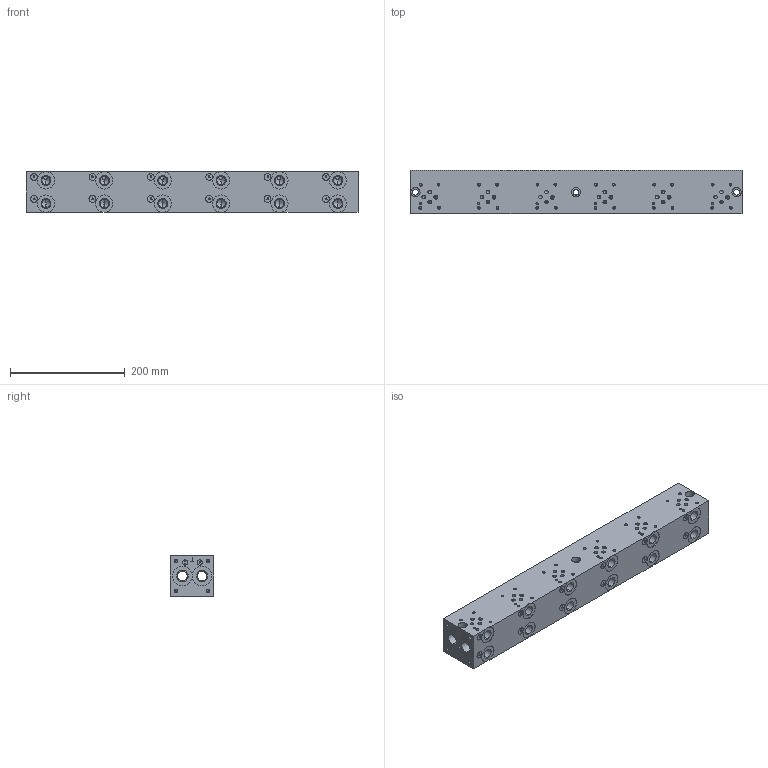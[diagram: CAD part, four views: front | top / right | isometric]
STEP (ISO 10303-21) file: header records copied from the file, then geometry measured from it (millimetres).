
FILE_DESCRIPTION (( 'STEP AP203' ), '1' );
FILE_NAME ('BM-ASP03S4-06-1_Z.STEP', '2015-01-06T15:43:49', ( '' ), ( '' ), 'SwSTEP 2.0', 'SolidWorks 2014', '' );
FILE_SCHEMA (( 'CONFIG_CONTROL_DESIGN' ));
Length unit declared in the file: inch
Products named in the file (1): BM-ASP03S4-06-1_Z
Bounding box: 577.85 x 74.93 x 69.85 mm (x, y, z)
Volume: 2646896.3 mm3; surface area: 282830.9 mm2
Topology: 1 solids, 1 shells, 803 faces, 2054 edges, 1260 vertices
Faces by surface type: cylinder 322, plane 273, cone 142, bspline 66
Entity records: 29009 total; most frequent: CARTESIAN_POINT 10224, ORIENTED_EDGE 3860, DIRECTION 3746, EDGE_CURVE 1930, AXIS2_PLACEMENT_3D 1362, VERTEX_POINT 1260, LINE 1022, VECTOR 1022
